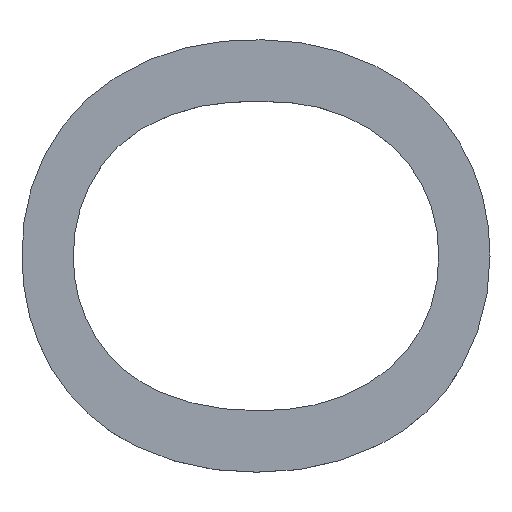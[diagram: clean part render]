
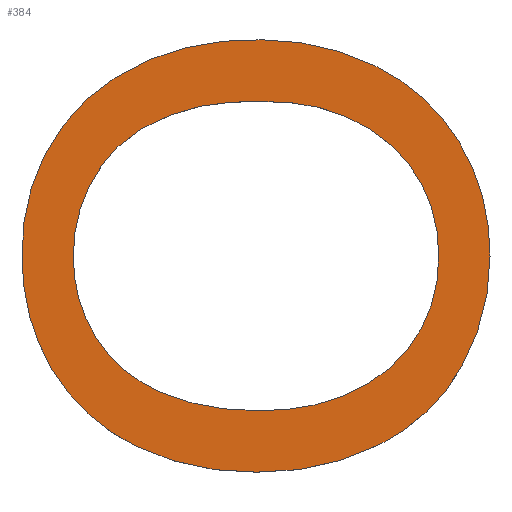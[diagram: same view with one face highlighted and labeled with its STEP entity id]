
A CAD part, top view. The second image highlights one B-rep face of the part: STEP entity #384.
In plain terms, the highlighted planar face has unit normal (0, 0, 1).
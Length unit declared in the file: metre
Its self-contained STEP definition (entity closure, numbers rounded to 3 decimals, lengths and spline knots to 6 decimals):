
#12=PLANE('',#451);
#19=CIRCLE('',#393,0.000511);
#21=CIRCLE('',#396,0.000527);
#23=CIRCLE('',#399,0.00041);
#25=CIRCLE('',#402,0.000442);
#27=CIRCLE('',#405,0.000464);
#29=CIRCLE('',#408,0.000391);
#31=CIRCLE('',#411,0.000551);
#33=CIRCLE('',#414,0.000561);
#35=CIRCLE('',#417,0.000403);
#37=CIRCLE('',#420,0.000447);
#39=CIRCLE('',#423,0.000424);
#41=CIRCLE('',#426,0.000377);
#43=CIRCLE('',#429,0.000414);
#45=CIRCLE('',#432,0.000315);
#47=CIRCLE('',#435,0.000305);
#49=CIRCLE('',#438,0.000296);
#51=CIRCLE('',#441,0.000482);
#53=CIRCLE('',#444,0.000401);
#55=CIRCLE('',#447,0.000297);
#57=CIRCLE('',#450,0.000298);
#138=ORIENTED_EDGE('',*,*,#210,.T.);
#139=ORIENTED_EDGE('',*,*,#208,.T.);
#140=ORIENTED_EDGE('',*,*,#205,.T.);
#141=ORIENTED_EDGE('',*,*,#202,.T.);
#142=ORIENTED_EDGE('',*,*,#199,.T.);
#143=ORIENTED_EDGE('',*,*,#196,.T.);
#144=ORIENTED_EDGE('',*,*,#193,.T.);
#145=ORIENTED_EDGE('',*,*,#190,.T.);
#146=ORIENTED_EDGE('',*,*,#187,.T.);
#147=ORIENTED_EDGE('',*,*,#184,.T.);
#148=ORIENTED_EDGE('',*,*,#181,.T.);
#149=ORIENTED_EDGE('',*,*,#237,.T.);
#150=ORIENTED_EDGE('',*,*,#235,.T.);
#151=ORIENTED_EDGE('',*,*,#232,.T.);
#152=ORIENTED_EDGE('',*,*,#229,.T.);
#153=ORIENTED_EDGE('',*,*,#226,.T.);
#154=ORIENTED_EDGE('',*,*,#223,.T.);
#155=ORIENTED_EDGE('',*,*,#220,.T.);
#156=ORIENTED_EDGE('',*,*,#217,.T.);
#157=ORIENTED_EDGE('',*,*,#214,.T.);
#181=EDGE_CURVE('',#238,#241,#19,.F.);
#184=EDGE_CURVE('',#242,#238,#21,.F.);
#187=EDGE_CURVE('',#244,#242,#23,.F.);
#190=EDGE_CURVE('',#246,#244,#25,.F.);
#193=EDGE_CURVE('',#248,#246,#27,.F.);
#196=EDGE_CURVE('',#250,#248,#29,.F.);
#199=EDGE_CURVE('',#252,#250,#31,.F.);
#202=EDGE_CURVE('',#254,#252,#33,.F.);
#205=EDGE_CURVE('',#256,#254,#35,.F.);
#208=EDGE_CURVE('',#258,#256,#37,.F.);
#210=EDGE_CURVE('',#241,#258,#39,.F.);
#214=EDGE_CURVE('',#260,#263,#41,.T.);
#217=EDGE_CURVE('',#264,#260,#43,.T.);
#220=EDGE_CURVE('',#266,#264,#45,.T.);
#223=EDGE_CURVE('',#268,#266,#47,.T.);
#226=EDGE_CURVE('',#270,#268,#49,.T.);
#229=EDGE_CURVE('',#272,#270,#51,.T.);
#232=EDGE_CURVE('',#274,#272,#53,.T.);
#235=EDGE_CURVE('',#276,#274,#55,.T.);
#237=EDGE_CURVE('',#263,#276,#57,.T.);
#238=VERTEX_POINT('',#587);
#241=VERTEX_POINT('',#595);
#242=VERTEX_POINT('',#602);
#244=VERTEX_POINT('',#611);
#246=VERTEX_POINT('',#620);
#248=VERTEX_POINT('',#629);
#250=VERTEX_POINT('',#638);
#252=VERTEX_POINT('',#644);
#254=VERTEX_POINT('',#653);
#256=VERTEX_POINT('',#662);
#258=VERTEX_POINT('',#671);
#260=VERTEX_POINT('',#683);
#263=VERTEX_POINT('',#691);
#264=VERTEX_POINT('',#698);
#266=VERTEX_POINT('',#704);
#268=VERTEX_POINT('',#713);
#270=VERTEX_POINT('',#722);
#272=VERTEX_POINT('',#731);
#274=VERTEX_POINT('',#740);
#276=VERTEX_POINT('',#749);
#316=EDGE_LOOP('',(#138,#139,#140,#141,#142,#143,#144,#145,#146,#147,#148));
#317=EDGE_LOOP('',(#149,#150,#151,#152,#153,#154,#155,#156,#157));
#340=FACE_BOUND('',#316,.T.);
#341=FACE_BOUND('',#317,.T.);
#384=ADVANCED_FACE('',(#340,#341),#12,.F.);
#393=AXIS2_PLACEMENT_3D('',#596,#459,#460);
#396=AXIS2_PLACEMENT_3D('',#605,#465,#466);
#399=AXIS2_PLACEMENT_3D('',#614,#471,#472);
#402=AXIS2_PLACEMENT_3D('',#623,#477,#478);
#405=AXIS2_PLACEMENT_3D('',#632,#483,#484);
#408=AXIS2_PLACEMENT_3D('',#641,#489,#490);
#411=AXIS2_PLACEMENT_3D('',#647,#496,#497);
#414=AXIS2_PLACEMENT_3D('',#656,#502,#503);
#417=AXIS2_PLACEMENT_3D('',#665,#508,#509);
#420=AXIS2_PLACEMENT_3D('',#674,#514,#515);
#423=AXIS2_PLACEMENT_3D('',#677,#520,#521);
#426=AXIS2_PLACEMENT_3D('',#692,#526,#527);
#429=AXIS2_PLACEMENT_3D('',#701,#532,#533);
#432=AXIS2_PLACEMENT_3D('',#707,#539,#540);
#435=AXIS2_PLACEMENT_3D('',#716,#545,#546);
#438=AXIS2_PLACEMENT_3D('',#725,#551,#552);
#441=AXIS2_PLACEMENT_3D('',#734,#557,#558);
#444=AXIS2_PLACEMENT_3D('',#743,#563,#564);
#447=AXIS2_PLACEMENT_3D('',#752,#569,#570);
#450=AXIS2_PLACEMENT_3D('',#755,#575,#576);
#451=AXIS2_PLACEMENT_3D('',#756,#577,#578);
#459=DIRECTION('',(0.,0.,-1.));
#460=DIRECTION('',(1.,0.,0.));
#465=DIRECTION('',(0.,0.,-1.));
#466=DIRECTION('',(1.,0.,0.));
#471=DIRECTION('',(0.,0.,-1.));
#472=DIRECTION('',(1.,0.,0.));
#477=DIRECTION('',(0.,0.,-1.));
#478=DIRECTION('',(1.,0.,0.));
#483=DIRECTION('',(0.,0.,-1.));
#484=DIRECTION('',(1.,0.,0.));
#489=DIRECTION('',(0.,0.,-1.));
#490=DIRECTION('',(1.,0.,0.));
#496=DIRECTION('',(0.,0.,-1.));
#497=DIRECTION('',(1.,0.,0.));
#502=DIRECTION('',(0.,0.,-1.));
#503=DIRECTION('',(1.,0.,0.));
#508=DIRECTION('',(0.,0.,-1.));
#509=DIRECTION('',(1.,0.,0.));
#514=DIRECTION('',(0.,0.,-1.));
#515=DIRECTION('',(1.,0.,0.));
#520=DIRECTION('',(0.,0.,-1.));
#521=DIRECTION('',(1.,0.,0.));
#526=DIRECTION('',(0.,0.,-1.));
#527=DIRECTION('',(1.,0.,0.));
#532=DIRECTION('',(0.,0.,-1.));
#533=DIRECTION('',(1.,0.,0.));
#539=DIRECTION('',(0.,0.,-1.));
#540=DIRECTION('',(1.,0.,0.));
#545=DIRECTION('',(0.,0.,-1.));
#546=DIRECTION('',(1.,0.,0.));
#551=DIRECTION('',(0.,0.,-1.));
#552=DIRECTION('',(1.,0.,0.));
#557=DIRECTION('',(0.,0.,-1.));
#558=DIRECTION('',(1.,0.,0.));
#563=DIRECTION('',(0.,0.,-1.));
#564=DIRECTION('',(1.,0.,0.));
#569=DIRECTION('',(0.,0.,-1.));
#570=DIRECTION('',(1.,0.,0.));
#575=DIRECTION('',(0.,0.,-1.));
#576=DIRECTION('',(1.,0.,0.));
#577=DIRECTION('',(0.,0.,-1.));
#578=DIRECTION('',(0.,-1.,0.));
#587=CARTESIAN_POINT('',(-0.015903,0.003828,-0.03));
#595=CARTESIAN_POINT('',(-0.016268,0.003703,-0.03));
#596=CARTESIAN_POINT('',(-0.015937,0.003316,-0.03));
#602=CARTESIAN_POINT('',(-0.01567,0.003774,-0.03));
#605=CARTESIAN_POINT('',(-0.015902,0.0033,-0.03));
#611=CARTESIAN_POINT('',(-0.015496,0.003616,-0.03));
#614=CARTESIAN_POINT('',(-0.015847,0.003404,-0.03));
#620=CARTESIAN_POINT('',(-0.015432,0.003381,-0.03));
#623=CARTESIAN_POINT('',(-0.015874,0.003389,-0.03));
#629=CARTESIAN_POINT('',(-0.01549,0.003153,-0.03));
#632=CARTESIAN_POINT('',(-0.015896,0.003377,-0.03));
#638=CARTESIAN_POINT('',(-0.01566,0.002991,-0.03));
#641=CARTESIAN_POINT('',(-0.015832,0.003342,-0.03));
#644=CARTESIAN_POINT('',(-0.015914,0.002934,-0.03));
#647=CARTESIAN_POINT('',(-0.015904,0.003485,-0.03));
#653=CARTESIAN_POINT('',(-0.016165,0.002988,-0.03));
#656=CARTESIAN_POINT('',(-0.015925,0.003495,-0.03));
#662=CARTESIAN_POINT('',(-0.016338,0.003146,-0.03));
#665=CARTESIAN_POINT('',(-0.01599,0.003352,-0.03));
#671=CARTESIAN_POINT('',(-0.0164,0.00338,-0.03));
#674=CARTESIAN_POINT('',(-0.015952,0.003373,-0.03));
#677=CARTESIAN_POINT('',(-0.015975,0.003396,-0.03));
#683=CARTESIAN_POINT('',(-0.015902,0.0037,-0.03));
#691=CARTESIAN_POINT('',(-0.015635,0.003609,-0.03));
#692=CARTESIAN_POINT('',(-0.015878,0.003322,-0.03));
#698=CARTESIAN_POINT('',(-0.016203,0.003605,-0.03));
#701=CARTESIAN_POINT('',(-0.015945,0.003285,-0.03));
#704=CARTESIAN_POINT('',(-0.016294,0.00338,-0.03));
#707=CARTESIAN_POINT('',(-0.015978,0.003384,-0.03));
#713=CARTESIAN_POINT('',(-0.016247,0.003213,-0.03));
#716=CARTESIAN_POINT('',(-0.015988,0.003375,-0.03));
#722=CARTESIAN_POINT('',(-0.016115,0.0031,-0.03));
#725=CARTESIAN_POINT('',(-0.015997,0.003372,-0.03));
#731=CARTESIAN_POINT('',(-0.015915,0.003061,-0.03));
#734=CARTESIAN_POINT('',(-0.015927,0.003543,-0.03));
#740=CARTESIAN_POINT('',(-0.015636,0.003151,-0.03));
#743=CARTESIAN_POINT('',(-0.015887,0.003463,-0.03));
#749=CARTESIAN_POINT('',(-0.015538,0.003381,-0.03));
#752=CARTESIAN_POINT('',(-0.015836,0.003372,-0.03));
#755=CARTESIAN_POINT('',(-0.015836,0.003389,-0.03));
#756=CARTESIAN_POINT('',(-0.015916,0.00338,-0.03));
